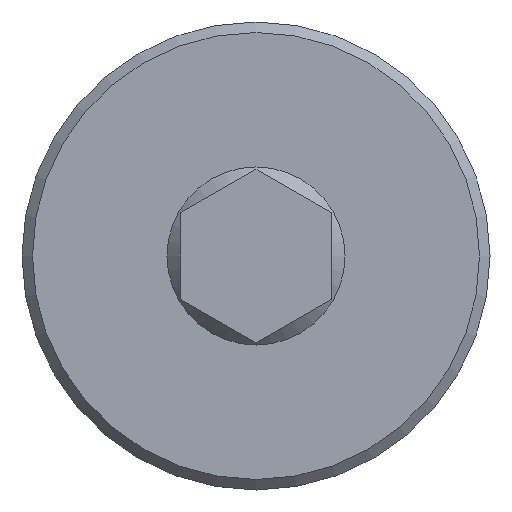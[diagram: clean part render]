
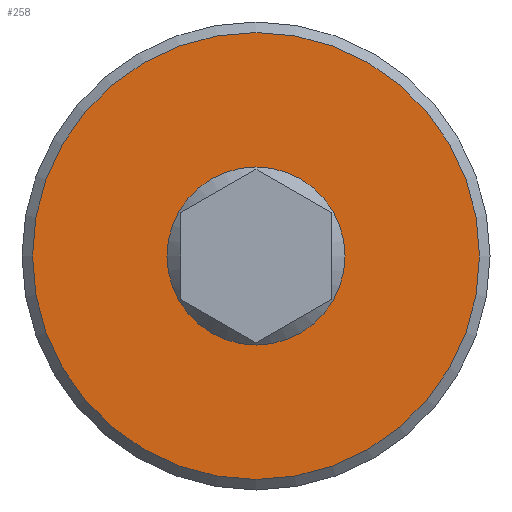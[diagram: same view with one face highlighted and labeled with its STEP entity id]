
A CAD part, front view. The second image highlights one B-rep face of the part: STEP entity #258.
In plain terms, the highlighted planar face has unit normal (0, 1, 0).
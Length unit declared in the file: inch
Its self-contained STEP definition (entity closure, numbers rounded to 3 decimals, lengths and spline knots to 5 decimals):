
#15=FACE_BOUND('',#53,.T.);
#23=CIRCLE('',#291,1.1175);
#24=CIRCLE('',#293,0.445);
#39=FACE_OUTER_BOUND('',#52,.T.);
#52=EDGE_LOOP('',(#217));
#53=EDGE_LOOP('',(#218));
#127=VERTEX_POINT('',#450);
#128=VERTEX_POINT('',#454);
#163=EDGE_CURVE('',#127,#127,#23,.T.);
#164=EDGE_CURVE('',#128,#128,#24,.T.);
#217=ORIENTED_EDGE('',*,*,#163,.F.);
#218=ORIENTED_EDGE('',*,*,#164,.F.);
#246=PLANE('',#292);
#258=ADVANCED_FACE('',(#39,#15),#246,.T.);
#291=AXIS2_PLACEMENT_3D('',#452,#346,#347);
#292=AXIS2_PLACEMENT_3D('',#453,#348,#349);
#293=AXIS2_PLACEMENT_3D('',#455,#350,#351);
#346=DIRECTION('center_axis',(0.,-1.,0.));
#347=DIRECTION('ref_axis',(0.,0.,1.));
#348=DIRECTION('center_axis',(0.,1.,0.));
#349=DIRECTION('ref_axis',(0.,0.,1.));
#350=DIRECTION('center_axis',(0.,1.,0.));
#351=DIRECTION('ref_axis',(0.,0.,1.));
#450=CARTESIAN_POINT('',(0.,0.656,-1.1175));
#452=CARTESIAN_POINT('Origin',(0.,0.656,0.));
#453=CARTESIAN_POINT('Origin',(0.,0.656,-1.1875));
#454=CARTESIAN_POINT('',(0.,0.656,-0.445));
#455=CARTESIAN_POINT('Origin',(0.,0.656,0.));
